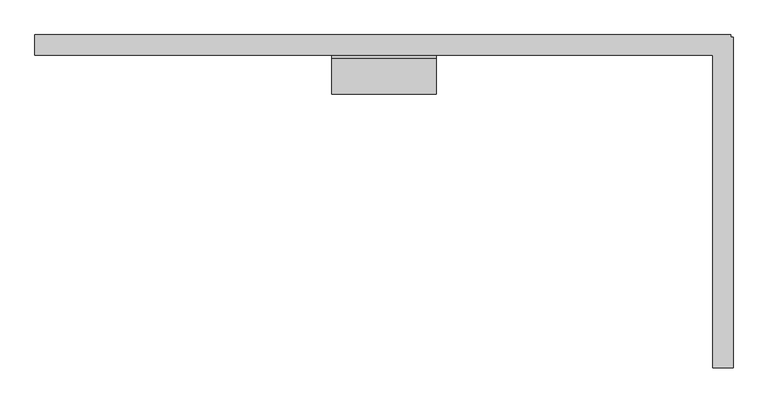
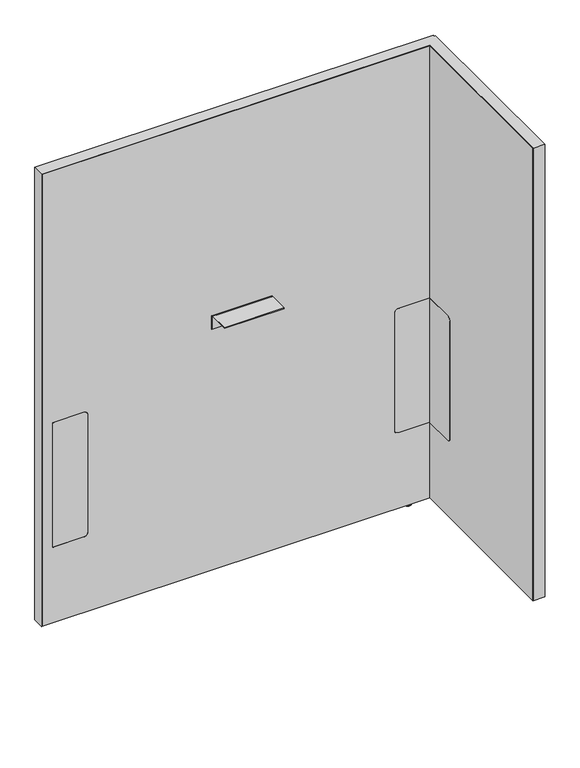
"""IFC4 building model written with IfcOpenShell, lengths in millimetres: furniture geometry, Steelcase - Answer Solution - Boundary Screen - L Return - Single Sided : 48H x 39W."""

from ifc_helpers import new_model, si_unit, point, frame, frame_2d, origin, place, context, project, spatial, polyline, circle_curve, ellipse_curve, trimmed, segment, composite_curve, outline, extrude, faceted_brep, source, transform, mapped, element, save
from ifc_brep_helpers import plane_surface, cylinder_surface, revolved_surface, advanced_brep


def furniture_a8c6d4c6(model_context):
    return source(origin(), model_context, "Body", "SolidModel", [
        extrude(outline(composite_curve([segment(polyline([(-109.3501471, 549.6162029), (-29.0550397, 549.6162029), (-29.0550397, 213.7762137), (-109.3501471, 213.7762137)]), True, "CONTINUOUS"), segment(trimmed(circle_curve(frame_2d((-109.3501471, 223.9362137)), 10.16), [point((-109.3501471, 213.7762137))], [point((-119.5101471, 223.9362137))], False, "CARTESIAN"), True, "CONTINUOUS"), segment(polyline([(-119.5101471, 223.9362137), (-119.5101471, 539.4562029)]), True, "CONTINUOUS"), segment(trimmed(circle_curve(frame_2d((-109.3501471, 539.4562029)), 10.16), [point((-119.5101471, 539.4562029))], [point((-109.3501471, 549.6162029))], False, "CARTESIAN"), True, "CONTINUOUS")], self_intersect=False)), frame((1220.4191891, 0.0, 0.0), z_axis=(1.0, 0.0, 0.0), x_axis=(0.0, 1.0, 0.0)), (0.0, 0.0, 1.0), 0.6401544),
        advanced_brep(
        [(1235.2672074, -448.0136072, 0.0), (1242.2216144, -448.0136072, 0.0), (1228.3128003, -448.0136072, 0.0), (1243.6762685, -448.0136072, 1.2700001), (1226.8581463, -448.0136072, 1.2700001), (1243.6762685, -448.0136072, 2.9673238), (1226.8581463, -448.0136072, 2.9673238), (1244.6427877, -448.0136072, 2.9673238), (1225.891627, -448.0136072, 2.9673238), (1244.6427877, -448.0136072, 9.9059849), (1225.891627, -448.0136072, 9.9059849), (1235.2672074, -448.0136072, 9.9059849)],
        [
            (0, 1),
            (1, 2, circle_curve(frame((1235.2672074, -448.0136072, 0.0), z_axis=(0.0, 0.0, -1.0), x_axis=(1.0, 0.0, 0.0)), 6.9544071)),
            (2, 0),
            (2, 1, circle_curve(frame((1235.2672074, -448.0136072, 0.0), z_axis=(0.0, 0.0, -1.0), x_axis=(1.0, 0.0, 0.0)), 6.9544071)),
            (1, 3, circle_curve(frame((1242.3945484, -448.0136072, 1.2700001), z_axis=(0.0, -1.0, 0.0), x_axis=(0.0, 0.0, 1.0)), 1.2817201)),
            (3, 4, circle_curve(frame((1235.2672074, -448.0136072, 1.2700001), z_axis=(0.0, 0.0, -1.0), x_axis=(1.0, 0.0, 0.0)), 8.4090611)),
            (4, 2, circle_curve(frame((1228.1398663, -448.0136072, 1.2700001), z_axis=(0.0, -1.0, 0.0), x_axis=(0.0, 0.0, 1.0)), 1.2817201)),
            (4, 3, circle_curve(frame((1235.2672074, -448.0136072, 1.2700001), z_axis=(0.0, 0.0, -1.0), x_axis=(1.0, 0.0, 0.0)), 8.4090611)),
            (3, 5),
            (5, 6, circle_curve(frame((1235.2672074, -448.0136072, 2.9673238), z_axis=(0.0, 0.0, -1.0), x_axis=(1.0, 0.0, 0.0)), 8.4090611)),
            (6, 4),
            (6, 5, circle_curve(frame((1235.2672074, -448.0136072, 2.9673238), z_axis=(0.0, 0.0, -1.0), x_axis=(1.0, 0.0, 0.0)), 8.4090611)),
            (5, 7),
            (7, 8, circle_curve(frame((1235.2672074, -448.0136072, 2.9673238), z_axis=(0.0, 0.0, -1.0), x_axis=(1.0, 0.0, 0.0)), 9.3755804)),
            (8, 6),
            (8, 7, circle_curve(frame((1235.2672074, -448.0136072, 2.9673238), z_axis=(0.0, 0.0, -1.0), x_axis=(1.0, 0.0, 0.0)), 9.3755804)),
            (7, 9),
            (9, 10, circle_curve(frame((1235.2672074, -448.0136072, 9.9059849), z_axis=(0.0, 0.0, -1.0), x_axis=(1.0, 0.0, 0.0)), 9.3755804)),
            (10, 8),
            (10, 9, circle_curve(frame((1235.2672074, -448.0136072, 9.9059849), z_axis=(0.0, 0.0, -1.0), x_axis=(1.0, 0.0, 0.0)), 9.3755804)),
            (9, 11),
            (11, 10),
        ],
        [
            plane_surface(frame((1235.2672074, -448.0136072, 0.0), z_axis=(0.0, 0.0, -1.0), x_axis=(1.0, 0.0, 0.0))),
            revolved_surface(trimmed(ellipse_curve(frame((1242.3945484, -448.0136072, 1.2700001), z_axis=(0.0, 1.0, 0.0), x_axis=(0.0, 0.0, 1.0)), 1.2817201, 1.2817201), [point((1243.6762685, -448.0136072, 1.2700001))], [point((1242.2216144, -448.0136072, 0.0))], True, "CARTESIAN"), (1235.2672074, -448.0136072, 9.9059849), (0.0, 0.0, -1.0)),
            cylinder_surface(frame((1235.2672074, -448.0136072, 9.9059849), z_axis=(0.0, 0.0, -1.0), x_axis=(1.0, 0.0, 0.0)), 8.4090611),
            plane_surface(frame((1235.2672074, -448.0136072, 2.9673238), z_axis=(0.0, 0.0, -1.0), x_axis=(1.0, 0.0, 0.0))),
            cylinder_surface(frame((1235.2672074, -448.0136072, 9.9059849), z_axis=(0.0, 0.0, -1.0), x_axis=(1.0, 0.0, 0.0)), 9.3755804),
            plane_surface(frame((1235.2672074, -448.0136072, 9.9059849), z_axis=(0.0, 0.0, 1.0), x_axis=(1.0, 0.0, 0.0))),
        ],
        [
            (0, [[1, 2, 3]]),
            (0, [[-3, 4, -1]]),
            (1, [[-2, 5, 6, 7]]),
            (1, [[-4, -7, 8, -5]]),
            (2, [[-6, 9, 10, 11]]),
            (2, [[-8, -11, 12, -9]]),
            (3, [[-10, 13, 14, 15]]),
            (3, [[-12, -15, 16, -13]]),
            (4, [[-14, 17, 18, 19]]),
            (4, [[-16, -19, 20, -17]]),
            (5, [[-18, 21, 22]]),
            (5, [[-20, -22, -21]]),
        ],
    ),
        faceted_brep([(1246.8531179, 0.0, 1230.122), (1246.8531179, 0.0, 9.9059849), (1245.8621491, 0.0, 9.9059849), (1245.8621491, 0.0, 1229.142118), (230.8097779, 0.0, 1229.142118), (230.8097779, 0.0, 9.9059849), (229.8191891, 0.0, 9.9059849), (229.8191891, 0.0, 1230.122), (229.8191891, -29.6898332, 1230.122), (229.8191891, -29.6898332, 9.9059849), (230.8097779, -29.6898332, 9.9059849), (230.8097779, -29.6898332, 1229.142118), (1220.4191891, -29.6898332, 1229.142118), (1220.4191891, -29.6898332, 1230.122), (1245.8621491, -29.6898332, 1229.142118), (1245.8621491, -29.6898332, 9.9059849), (1246.8531179, -29.6898332, 9.9059849), (1246.8531179, -29.6898332, 1229.142118), (1246.8531179, -3.2625916, 1230.122), (1246.8531179, -3.2625916, 9.9059849), (1246.8531179, -4.252647, 9.9059849), (1246.8531179, -4.252647, 1229.142118), (1250.1152256, -3.2625916, 9.9059849), (1250.1152256, -4.252647, 9.9059849), (1245.8621491, -4.252647, 9.9059849), (1220.4191891, -4.252647, 9.9059849), (1220.4191891, -3.2625916, 9.9059849), (1245.8621491, -3.2625916, 9.9059849), (1220.4191891, -486.8898332, 1230.122), (1250.1152256, -486.8898332, 1230.122), (1250.1152256, -3.2625916, 1230.122), (1245.8621491, -3.2625916, 1229.142118), (1245.8621491, -4.252647, 1229.142118), (1220.4191891, -3.2625916, 1229.142118), (1220.4191891, -4.252647, 1229.142118), (1250.1152256, -4.252647, 1229.142118), (1250.1152256, -485.899196, 1229.142118), (1220.4191891, -485.899196, 1229.142118), (1220.4191891, -485.899196, 9.9059849), (1220.4191891, -486.8898332, 9.9059849), (1250.1152256, -486.8898332, 9.9059849), (1250.1152256, -485.899196, 9.9059849)], [[[0, 1, 2, 3, 4, 5, 6, 7]], [[8, 9, 10, 11, 12, 13]], [[14, 15, 16, 17]], [[1, 0, 18, 19]], [[17, 16, 20, 21]], [[2, 1, 19, 22, 23, 20, 16, 15, 24, 25, 26, 27]], [[7, 6, 9, 8]], [[0, 7, 8, 13, 28, 29, 30, 18]], [[3, 2, 27, 31]], [[15, 14, 32, 24]], [[4, 3, 31, 33, 34, 32, 14, 17, 21, 35, 36, 37, 12, 11]], [[5, 4, 11, 10]], [[6, 5, 10, 9]], [[26, 25, 34, 33]], [[37, 38, 39, 28, 13, 12]], [[29, 40, 41, 36, 35, 23, 22, 30]], [[27, 26, 33, 31]], [[30, 22, 19, 18]], [[34, 25, 24, 32]], [[23, 35, 21, 20]], [[38, 37, 36, 41]], [[39, 38, 41, 40]], [[28, 39, 40, 29]]]),
        extrude(outline(composite_curve([segment(polyline([(-86.8398151, 696.4680019), (-86.8398151, 698.5), (-34.9450855, 698.5)]), True, "CONTINUOUS"), segment(trimmed(circle_curve(frame_2d((-34.9450855, 693.2447477)), 5.2552523), [point((-34.9450855, 698.5))], [point((-29.6898332, 693.2447477))], False, "CARTESIAN"), True, "CONTINUOUS"), segment(polyline([(-29.6898332, 693.2447477), (-29.6898332, 660.4), (-31.7218162, 660.4), (-31.7218162, 693.0058743)]), True, "CONTINUOUS"), segment(trimmed(circle_curve(frame_2d((-35.1839438, 693.0058743)), 3.4621276), [point((-31.7218162, 693.0058743))], [point((-35.1839438, 696.4680019))], True, "CARTESIAN"), True, "CONTINUOUS"), segment(polyline([(-35.1839438, 696.4680019), (-86.8398151, 696.4680019)]), True, "CONTINUOUS")], self_intersect=False)), frame((663.7685899, 0.0, 0.0), z_axis=(1.0, 0.0, 0.0), x_axis=(0.0, 1.0, 0.0)), (0.0, 0.0, 1.0), 152.4000969),
        advanced_brep(
        [(1172.9246853, -23.7588726, 9.9059849), (1172.9246853, -5.9309607, 9.9059849), (1172.9246853, -14.8449166, 9.9059849), (1172.9246853, -23.7588726, 2.9673238), (1172.9246853, -5.9309607, 2.9673238), (1172.9246853, -22.7915354, 2.9673238), (1172.9246853, -6.8982978, 2.9673238), (1172.9246853, -22.7915354, 1.6569081), (1172.9246853, -6.8982978, 1.6569081), (1172.9246853, -21.1346274, 0.0), (1172.9246853, -8.5552059, 0.0), (1172.9246853, -14.8449166, 0.0)],
        [
            (0, 1, circle_curve(frame((1172.9246853, -14.8449166, 9.9059849), z_axis=(0.0, 0.0, 1.0), x_axis=(0.0, 1.0, 0.0)), 8.913956)),
            (1, 2),
            (2, 0),
            (1, 0, circle_curve(frame((1172.9246853, -14.8449166, 9.9059849), z_axis=(0.0, 0.0, 1.0), x_axis=(0.0, 1.0, 0.0)), 8.913956)),
            (3, 4, circle_curve(frame((1172.9246853, -14.8449166, 2.9673238), z_axis=(0.0, 0.0, 1.0), x_axis=(0.0, 1.0, 0.0)), 8.913956)),
            (4, 1),
            (0, 3),
            (4, 3, circle_curve(frame((1172.9246853, -14.8449166, 2.9673238), z_axis=(0.0, 0.0, 1.0), x_axis=(0.0, 1.0, 0.0)), 8.913956)),
            (5, 6, circle_curve(frame((1172.9246853, -14.8449166, 2.9673238), z_axis=(0.0, 0.0, 1.0), x_axis=(0.0, 1.0, 0.0)), 7.9466188)),
            (6, 4),
            (3, 5),
            (6, 5, circle_curve(frame((1172.9246853, -14.8449166, 2.9673238), z_axis=(0.0, 0.0, 1.0), x_axis=(0.0, 1.0, 0.0)), 7.9466188)),
            (7, 8, circle_curve(frame((1172.9246853, -14.8449166, 1.6569081), z_axis=(0.0, 0.0, 1.0), x_axis=(0.0, 1.0, 0.0)), 7.9466188)),
            (8, 6),
            (5, 7),
            (8, 7, circle_curve(frame((1172.9246853, -14.8449166, 1.6569081), z_axis=(0.0, 0.0, 1.0), x_axis=(0.0, 1.0, 0.0)), 7.9466188)),
            (9, 10, circle_curve(frame((1172.9246853, -14.8449166, 0.0), z_axis=(0.0, 0.0, 1.0), x_axis=(0.0, 1.0, 0.0)), 6.2897107)),
            (10, 8, circle_curve(frame((1172.9246853, -8.5552059, 1.6569081), z_axis=(1.0, 0.0, 0.0), x_axis=(0.0, 1.0, 0.0)), 1.6569081)),
            (7, 9, circle_curve(frame((1172.9246853, -21.1346274, 1.6569081), z_axis=(1.0, 0.0, 0.0), x_axis=(0.0, -1.0, 0.0)), 1.6569081)),
            (10, 9, circle_curve(frame((1172.9246853, -14.8449166, 0.0), z_axis=(0.0, 0.0, 1.0), x_axis=(0.0, 1.0, 0.0)), 6.2897107)),
            (11, 10),
            (9, 11),
        ],
        [
            plane_surface(frame((1172.9246853, -14.8449166, 9.9059849), z_axis=(0.0, 0.0, 1.0), x_axis=(0.0, 1.0, 0.0))),
            cylinder_surface(frame((1172.9246853, -14.8449166, 9.9059849), z_axis=(0.0, 0.0, -1.0), x_axis=(0.0, 1.0, 0.0)), 8.913956),
            plane_surface(frame((1172.9246853, -14.8449166, 2.9673238), z_axis=(0.0, 0.0, -1.0), x_axis=(0.0, 1.0, 0.0))),
            cylinder_surface(frame((1172.9246853, -14.8449166, 9.9059849), z_axis=(0.0, 0.0, -1.0), x_axis=(0.0, 1.0, 0.0)), 7.9466188),
            revolved_surface(trimmed(ellipse_curve(frame((1172.9246853, -8.5552059, 1.6569081), z_axis=(-1.0, 0.0, 0.0), x_axis=(0.0, 1.0, 0.0)), 1.6569081, 1.6569081), [point((1172.9246853, -6.8982978, 1.6569081))], [point((1172.9246853, -8.5552059, 0.0))], True, "CARTESIAN"), (1172.9246853, -14.8449166, 9.9059849), (0.0, 0.0, -1.0)),
            plane_surface(frame((1172.9246853, -14.8449166, 0.0), z_axis=(0.0, 0.0, -1.0), x_axis=(0.0, 1.0, 0.0))),
        ],
        [
            (0, [[1, 2, 3]]),
            (0, [[4, -3, -2]]),
            (1, [[5, 6, -1, 7]]),
            (1, [[8, -7, -4, -6]]),
            (2, [[9, 10, -5, 11]]),
            (2, [[12, -11, -8, -10]]),
            (3, [[13, 14, -9, 15]]),
            (3, [[16, -15, -12, -14]]),
            (4, [[17, 18, -13, 19]]),
            (4, [[20, -19, -16, -18]]),
            (5, [[21, -17, 22]]),
            (5, [[-22, -20, -21]]),
        ],
    ),
        advanced_brep(
        [(230.8097779, 0.0, 1229.142118), (1245.8621491, 0.0, 1229.142118), (1245.8621491, 0.0, 9.9059849), (230.8097779, 0.0, 9.9059849), (347.9483813, -29.0550397, 539.4562029), (337.7883813, -29.0550397, 549.6162029), (258.1344836, -29.0550397, 549.6162029), (258.1344836, -29.0550397, 213.7762137), (337.7883813, -29.0550397, 213.7762137), (347.9483813, -29.0550397, 223.9362137), (1221.0593435, -29.0550397, 213.7762137), (1221.0593435, -29.0550397, 549.6162029), (1140.5109268, -29.0550397, 549.6162029), (1130.3509268, -29.0550397, 539.4562029), (1130.3509268, -29.0550397, 223.9362137), (1140.5109268, -29.0550397, 213.7762137), (230.8097779, -29.6898332, 1229.142118), (230.8097779, -29.6898332, 9.9059849), (1220.4191891, -29.6898332, 9.9059849), (1220.4191891, -29.6898332, 213.7762137), (1140.5109268, -29.6898332, 213.7762137), (1130.3509268, -29.6898332, 223.9362137), (1130.3509268, -29.6898332, 539.4562029), (1140.5109268, -29.6898332, 549.6162029), (1220.4191891, -29.6898332, 549.6162029), (1220.4191891, -29.6898332, 1229.142118), (337.7883813, -29.6898332, 549.6162029), (347.9483813, -29.6898332, 539.4562029), (347.9483813, -29.6898332, 223.9362137), (337.7883813, -29.6898332, 213.7762137), (258.1344836, -29.6898332, 213.7762137), (258.1344836, -29.6898332, 549.6162029), (1245.8621491, -4.252647, 9.9059849), (1250.1152256, -4.252647, 9.9059849), (1250.1152256, -485.899196, 9.9059849), (1220.4191891, -485.899196, 9.9059849), (1245.8621491, -4.252647, 1229.142118), (1220.4191891, -485.899196, 1229.142118), (1250.1152256, -485.899196, 1229.142118), (1250.1152256, -4.252647, 1229.142118), (1221.0593435, -109.3501471, 549.6162029), (1220.4191891, -109.3501471, 549.6162029), (1221.0593435, -109.3501471, 213.7762137), (1221.0593435, -119.5101471, 223.9362137), (1221.0593435, -119.5101471, 539.4562029), (1220.4191891, -109.3501471, 213.7762137), (1220.4191891, -119.5101471, 539.4562029), (1220.4191891, -119.5101471, 223.9362137)],
        [
            (0, 1),
            (1, 2),
            (2, 3),
            (3, 0),
            (4, 5, circle_curve(frame((337.7883813, -29.0550397, 539.4562029), z_axis=(0.0, -1.0, 0.0), x_axis=(0.0, 0.0, 1.0)), 10.16)),
            (5, 6),
            (6, 7),
            (7, 8),
            (8, 9, circle_curve(frame((337.7883813, -29.0550397, 223.9362137), z_axis=(0.0, -1.0, 0.0), x_axis=(0.0, 0.0, 1.0)), 10.16)),
            (9, 4),
            (10, 11),
            (11, 12),
            (12, 13, circle_curve(frame((1140.5109268, -29.0550397, 539.4562029), z_axis=(0.0, -1.0, 0.0), x_axis=(0.0, 0.0, 1.0)), 10.16)),
            (13, 14),
            (14, 15, circle_curve(frame((1140.5109268, -29.0550397, 223.9362137), z_axis=(0.0, -1.0, 0.0), x_axis=(0.0, 0.0, 1.0)), 10.16)),
            (15, 10),
            (16, 17),
            (17, 18),
            (18, 19),
            (19, 20),
            (20, 21, circle_curve(frame((1140.5109268, -29.6898332, 223.9362137), z_axis=(0.0, 1.0, 0.0), x_axis=(0.0, 0.0, 1.0)), 10.16)),
            (21, 22),
            (22, 23, circle_curve(frame((1140.5109268, -29.6898332, 539.4562029), z_axis=(0.0, 1.0, 0.0), x_axis=(0.0, 0.0, 1.0)), 10.16)),
            (23, 24),
            (24, 25),
            (25, 16),
            (26, 27, circle_curve(frame((337.7883813, -29.6898332, 539.4562029), z_axis=(0.0, 1.0, 0.0), x_axis=(0.0, 0.0, 1.0)), 10.16)),
            (27, 28),
            (28, 29, circle_curve(frame((337.7883813, -29.6898332, 223.9362137), z_axis=(0.0, 1.0, 0.0), x_axis=(0.0, 0.0, 1.0)), 10.16)),
            (29, 30),
            (30, 31),
            (31, 26),
            (16, 0),
            (3, 17),
            (2, 32),
            (32, 33),
            (33, 34),
            (34, 35),
            (35, 18),
            (1, 36),
            (36, 32),
            (25, 37),
            (37, 38),
            (38, 39),
            (39, 36),
            (26, 5),
            (4, 27),
            (9, 28),
            (8, 29),
            (7, 30),
            (6, 31),
            (11, 40),
            (40, 41),
            (41, 24),
            (23, 12),
            (42, 43, circle_curve(frame((1221.0593435, -109.3501471, 223.9362137), z_axis=(-1.0, 0.0, 0.0), x_axis=(0.0, 1.0, 0.0)), 10.16)),
            (43, 44),
            (44, 40, circle_curve(frame((1221.0593435, -109.3501471, 539.4562029), z_axis=(-1.0, 0.0, 0.0), x_axis=(0.0, 1.0, 0.0)), 10.16)),
            (10, 42),
            (15, 20),
            (19, 45),
            (45, 42),
            (14, 21),
            (13, 22),
            (35, 37),
            (41, 46, circle_curve(frame((1220.4191891, -109.3501471, 539.4562029), z_axis=(1.0, 0.0, 0.0), x_axis=(0.0, 1.0, 0.0)), 10.16)),
            (46, 47),
            (47, 45, circle_curve(frame((1220.4191891, -109.3501471, 223.9362137), z_axis=(1.0, 0.0, 0.0), x_axis=(0.0, 1.0, 0.0)), 10.16)),
            (38, 34),
            (33, 39),
            (44, 46),
            (43, 47),
        ],
        [
            plane_surface(frame((347.9483813, 0.0, 549.6162029), z_axis=(0.0, 1.0, 0.0), x_axis=(0.0, 0.0, -1.0))),
            plane_surface(frame((347.9483813, -29.0550397, 549.6162029), z_axis=(0.0, -1.0, 0.0), x_axis=(0.0, 0.0, 1.0))),
            plane_surface(frame((1245.8621491, -29.6898332, 1229.142118), z_axis=(0.0, -1.0, 0.0), x_axis=(-1.0, 0.0, 0.0))),
            plane_surface(frame((230.8097779, 0.0, 9.9059849), z_axis=(-1.0, 0.0, 0.0), x_axis=(0.0, -1.0, 0.0))),
            plane_surface(frame((1245.8621491, 0.0, 9.9059849), z_axis=(0.0, 0.0, -1.0), x_axis=(0.0, -1.0, 0.0))),
            plane_surface(frame((1245.8621491, 0.0, 1229.142118), z_axis=(1.0, 0.0, 0.0), x_axis=(0.0, -1.0, 0.0))),
            plane_surface(frame((230.8097779, 0.0, 1229.142118), z_axis=(0.0, 0.0, 1.0), x_axis=(0.0, -1.0, 0.0))),
            revolved_surface(polyline([(337.7883813, -29.6898332, 549.6162029), (337.7883813, -29.0550397, 549.6162029)]), (337.7883813, -29.6898332, 539.4562029), (0.0, -1.0, 0.0)),
            plane_surface(frame((347.9483813, 0.0, 223.9362137), z_axis=(-1.0, 0.0, 0.0), x_axis=(0.0, -1.0, 0.0))),
            revolved_surface(polyline([(337.7883813, -29.6898332, 234.0962137), (337.7883813, -29.0550397, 234.0962137)]), (337.7883813, -29.6898332, 223.9362137), (0.0, -1.0, 0.0)),
            plane_surface(frame((258.1344836, 0.0, 213.7762137), z_axis=(0.0, 0.0, 1.0), x_axis=(0.0, -1.0, 0.0))),
            plane_surface(frame((258.1344836, 0.0, 549.6162029), z_axis=(1.0, 0.0, 0.0), x_axis=(0.0, -1.0, 0.0))),
            plane_surface(frame((337.7883813, 0.0, 549.6162029), z_axis=(0.0, 0.0, -1.0), x_axis=(0.0, -1.0, 0.0))),
            plane_surface(frame((1221.0593435, 0.0, 549.6162029), z_axis=(0.0, 0.0, -1.0), x_axis=(0.0, -1.0, 0.0))),
            plane_surface(frame((1221.0593435, 0.0, 213.7762137), z_axis=(-1.0, 0.0, 0.0), x_axis=(0.0, -1.0, 0.0))),
            plane_surface(frame((1140.5109268, 0.0, 213.7762137), z_axis=(0.0, 0.0, 1.0), x_axis=(0.0, -1.0, 0.0))),
            revolved_surface(polyline([(1140.5109268, -29.6898332, 234.0962137), (1140.5109268, -29.0550397, 234.0962137)]), (1140.5109268, -29.6898332, 223.9362137), (0.0, -1.0, 0.0)),
            plane_surface(frame((1130.3509268, 0.0, 539.4562029), z_axis=(1.0, 0.0, 0.0), x_axis=(0.0, -1.0, 0.0))),
            revolved_surface(polyline([(1140.5109268, -29.6898332, 549.6162029), (1140.5109268, -29.0550397, 549.6162029)]), (1140.5109268, -29.6898332, 539.4562029), (0.0, -1.0, 0.0)),
            plane_surface(frame((1220.4191891, -485.899196, 1229.142118), z_axis=(-1.0, 0.0, 0.0), x_axis=(0.0, 0.0, 1.0))),
            plane_surface(frame((1250.1152256, -485.899196, 1229.142118), z_axis=(1.0, 0.0, 0.0), x_axis=(0.0, 0.0, -1.0))),
            plane_surface(frame((1250.1152256, -4.252647, 9.9059849), z_axis=(0.0, 1.0, 0.0), x_axis=(-1.0, 0.0, 0.0))),
            plane_surface(frame((1250.1152256, -485.899196, 1229.142118), z_axis=(0.0, -1.0, 0.0), x_axis=(-1.0, 0.0, 0.0))),
            revolved_surface(polyline([(1220.4191891, -99.1901471, 539.4562029), (1221.0593435, -99.1901471, 539.4562029)]), (-340.6902705, -109.3501471, 539.4562029), (-1.0, 0.0, 0.0)),
            plane_surface(frame((1250.1152256, -119.5101471, 223.9362137), z_axis=(0.0, 1.0, 0.0), x_axis=(-1.0, 0.0, 0.0))),
            revolved_surface(polyline([(1220.4191891, -99.1901471, 223.9362137), (1221.0593435, -99.1901471, 223.9362137)]), (-340.6902705, -109.3501471, 223.9362137), (-1.0, 0.0, 0.0)),
        ],
        [
            (0, [[1, 2, 3, 4]]),
            (1, [[5, 6, 7, 8, 9, 10]]),
            (1, [[11, 12, 13, 14, 15, 16]]),
            (2, [[17, 18, 19, 20, 21, 22, 23, 24, 25, 26], [27, 28, 29, 30, 31, 32]]),
            (3, [[-17, 33, -4, 34]]),
            (4, [[-3, 35, 36, 37, 38, 39, -18, -34]]),
            (5, [[-2, 40, 41, -35]]),
            (6, [[-1, -33, -26, 42, 43, 44, 45, -40]]),
            (7, [[-27, 46, -5, 47]]),
            (8, [[-28, -47, -10, 48]]),
            (9, [[-29, -48, -9, 49]]),
            (10, [[-30, -49, -8, 50]]),
            (11, [[-31, -50, -7, 51]]),
            (12, [[-32, -51, -6, -46]]),
            (13, [[52, 53, 54, -24, 55, -12]]),
            (14, [[56, 57, 58, -52, -11, 59]]),
            (15, [[-59, -16, 60, -20, 61, 62]]),
            (16, [[-21, -60, -15, 63]]),
            (17, [[-22, -63, -14, 64]]),
            (18, [[-23, -64, -13, -55]]),
            (19, [[65, -42, -25, -54, 66, 67, 68, -61, -19, -39]]),
            (20, [[69, -37, 70, -44]]),
            (21, [[-70, -36, -41, -45]]),
            (22, [[-65, -38, -69, -43]]),
            (23, [[-66, -53, -58, 71]]),
            (24, [[-67, -71, -57, 72]]),
            (25, [[-68, -72, -56, -62]]),
        ],
    ),
        extrude(outline(composite_curve([segment(polyline([(549.6162029, 337.7883813), (549.6162029, 258.1344836), (213.7762137, 258.1344836), (213.7762137, 337.7883813)]), True, "CONTINUOUS"), segment(trimmed(circle_curve(frame_2d((223.9362137, 337.7883813)), 10.16), [point((213.7762137, 337.7883813))], [point((223.9362137, 347.9483813))], False, "CARTESIAN"), True, "CONTINUOUS"), segment(polyline([(223.9362137, 347.9483813), (539.4562029, 347.9483813)]), True, "CONTINUOUS"), segment(trimmed(circle_curve(frame_2d((539.4562029, 337.7883813)), 10.16), [point((539.4562029, 347.9483813))], [point((549.6162029, 337.7883813))], False, "CARTESIAN"), True, "CONTINUOUS")], self_intersect=False)), frame((0.0, -29.6898332, 0.0), z_axis=(0.0, 1.0, 0.0), x_axis=(0.0, 0.0, 1.0)), (0.0, 0.0, 1.0), 0.6347935),
        extrude(outline(composite_curve([segment(trimmed(circle_curve(frame_2d((539.4562029, 1140.5109268)), 10.16), [point((549.6162029, 1140.5109268))], [point((539.4562029, 1130.3509268))], False, "CARTESIAN"), True, "CONTINUOUS"), segment(polyline([(539.4562029, 1130.3509268), (223.9362137, 1130.3509268)]), True, "CONTINUOUS"), segment(trimmed(circle_curve(frame_2d((223.9362137, 1140.5109268)), 10.16), [point((223.9362137, 1130.3509268))], [point((213.7762137, 1140.5109268))], False, "CARTESIAN"), True, "CONTINUOUS"), segment(polyline([(213.7762137, 1140.5109268), (213.7762137, 1220.4191891), (549.6162029, 1220.4191891), (549.6162029, 1140.5109268)]), True, "CONTINUOUS")], self_intersect=False)), frame((0.0, -29.6898332, 0.0), z_axis=(0.0, 1.0, 0.0), x_axis=(0.0, 0.0, 1.0)), (0.0, 0.0, 1.0), 0.6347935),
    ])


if __name__ == "__main__":
    model = new_model("IFC4")
    model_context = context("Model", 3, world=origin())
    ifc_project = project(units=[si_unit("LENGTHUNIT", "METRE", prefix="MILLI")], contexts=[model_context])
    site = spatial("IfcSite", under=ifc_project)
    building = spatial("IfcBuilding", under=site)
    placement = place(None, origin())
    furniture_shape = furniture_a8c6d4c6(model_context)
    element("IfcFurniture", 1, ObjectType="Steelcase - Answer Solution - Boundary Screen - L Return - Single Sided : 48H x 39W", at=placement, inside=building, context=model_context, shape_type="MappedRepresentation", body=[
        mapped(furniture_shape, transform((0.0, 0.0, 0.0), x_axis=(1.0, 0.0, 0.0), y_axis=(0.0, 1.0, 0.0), z_axis=(0.0, 0.0, 1.0))),
    ])
    save(model, "model.ifc")
